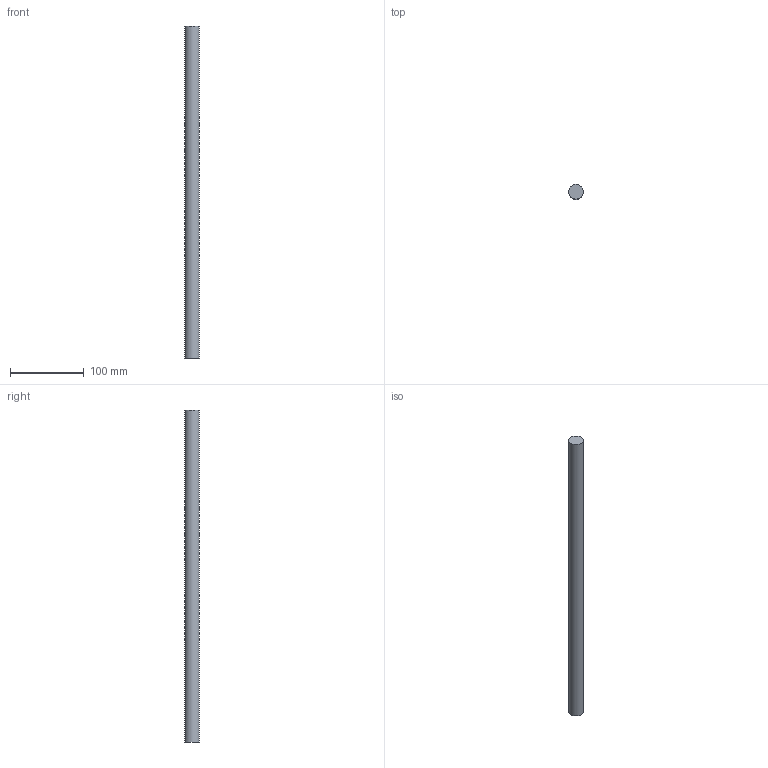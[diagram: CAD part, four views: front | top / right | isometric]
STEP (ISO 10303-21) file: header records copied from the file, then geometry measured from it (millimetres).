
FILE_DESCRIPTION(/* description */ (''),/* implementation_level */ '2;1');
FILE_NAME(/* name */ 'C:\Users\David\Desktop\stepFiles\Profilfuehrung\WF20x450.stp',/* time_stamp */ '2018-06-24T15:49:02+02:00',/* author */ ('David'),/* organization */ (''),/* preprocessor_version */ 'ST-DEVELOPER v17',/* originating_system */ 'Autodesk Inventor 2019',/* authorisation */ '');
FILE_SCHEMA (('AUTOMOTIVE_DESIGN { 1 0 10303 214 3 1 1 }'));
Length unit declared in the file: millimetre
Products named in the file (1): Wellenfuehrung
Bounding box: 20 x 20 x 450 mm (x, y, z)
Volume: 141371.7 mm3; surface area: 28902.7 mm2
Topology: 1 solids, 1 shells, 3 faces, 3 edges, 2 vertices
Faces by surface type: plane 2, cylinder 1
Full cylindrical faces by diameter (mm): 20 x1
Entity records: 98 total; most frequent: DIRECTION 13, CARTESIAN_POINT 9, ORIENTED_EDGE 6, AXIS2_PLACEMENT_3D 6, FACE_OUTER_BOUND 3, EDGE_LOOP 3, EDGE_CURVE 3, ADVANCED_FACE 3
